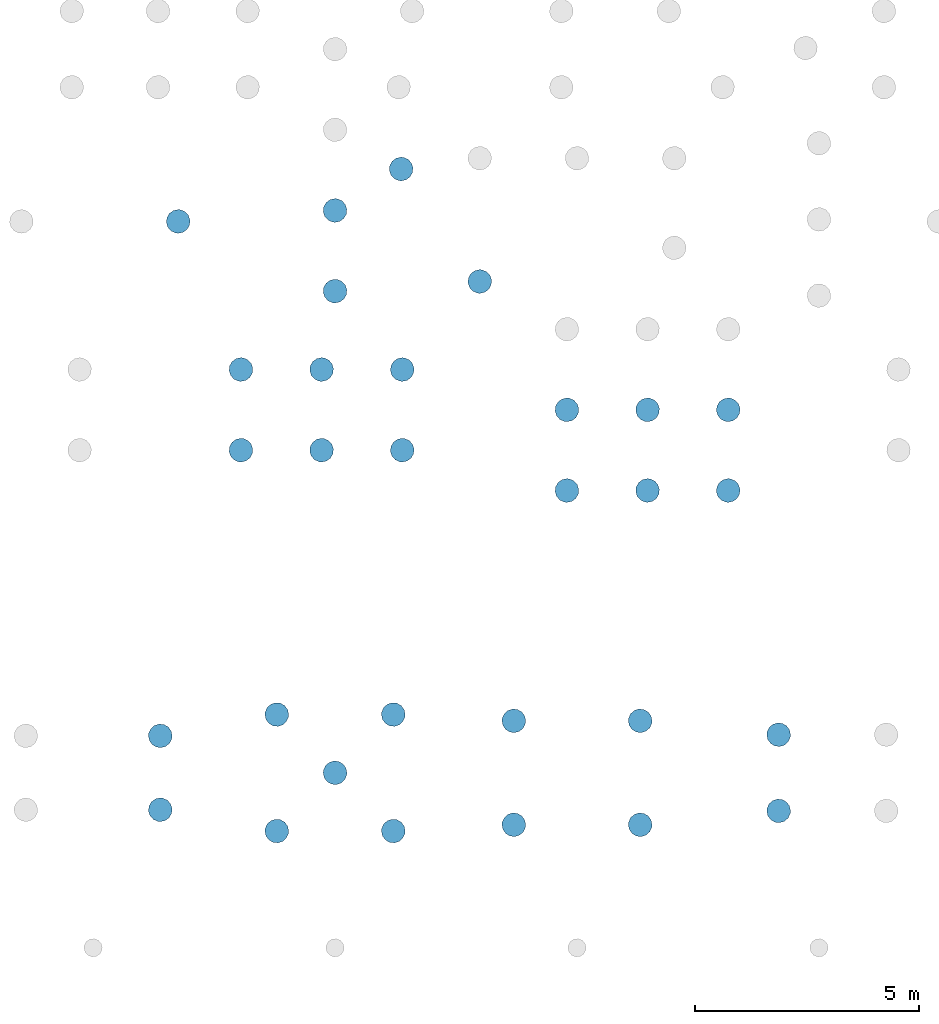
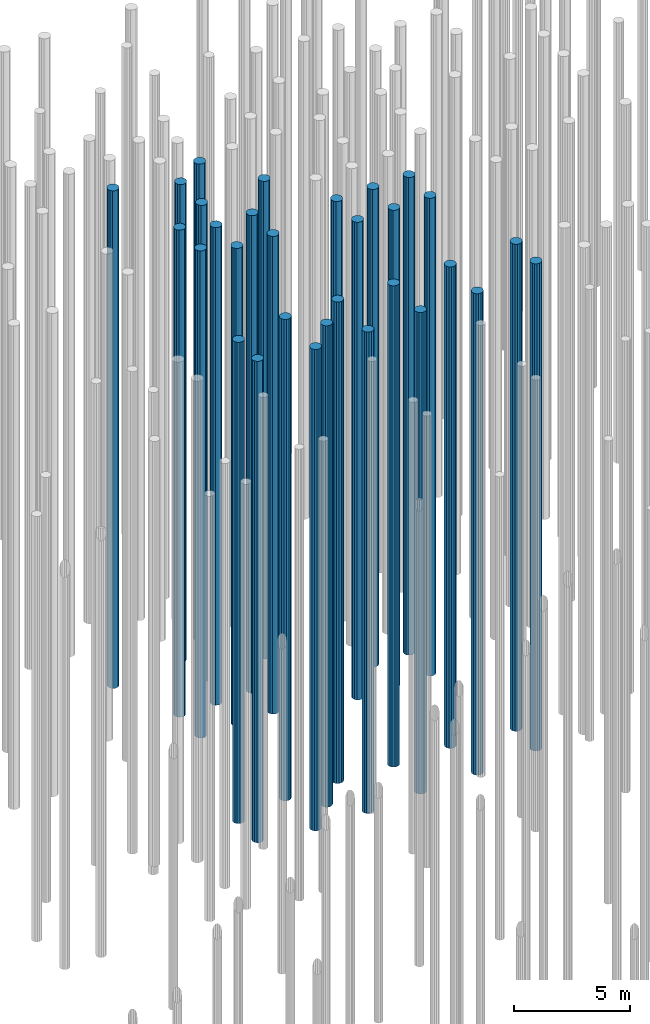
# One storey, part 15 of 20: 30 piles.
"""IFC2X3 building model written with IfcOpenShell, lengths in millimetres."""

from ifc_helpers import new_model, entity, si_unit, converted_unit, derived_unit, direction, frame, origin, place, context, subcontext, project, spatial, polyline, outline, extrude, material, element, save


model = new_model("IFC2X3")

# Units and contexts
model_context = context("Model", 3, precision=0.01, world=origin(), true_north=direction((6.12303176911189e-17, 1.0)))
body_context = subcontext(model_context, "Body", "Model", "MODEL_VIEW")
ifc_project = project(units=[si_unit("LENGTHUNIT", "METRE", prefix="MILLI"), si_unit("AREAUNIT", "SQUARE_METRE"), si_unit("VOLUMEUNIT", "CUBIC_METRE"), converted_unit("PLANEANGLEUNIT", "DEGREE", entity("IfcRatioMeasure", 0.0174532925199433), si_unit("PLANEANGLEUNIT", "RADIAN"), dimensions=[0, 0, 0, 0, 0, 0, 0]), si_unit("MASSUNIT", "GRAM", prefix="KILO"), derived_unit("MASSDENSITYUNIT", [(si_unit("MASSUNIT", "GRAM", prefix="KILO"), 1), (si_unit("LENGTHUNIT", "METRE"), -3)]), si_unit("TIMEUNIT", "SECOND"), si_unit("FREQUENCYUNIT", "HERTZ"), si_unit("THERMODYNAMICTEMPERATUREUNIT", "DEGREE_CELSIUS"), derived_unit("THERMALTRANSMITTANCEUNIT", [(si_unit("MASSUNIT", "GRAM", prefix="KILO"), 1), (si_unit("THERMODYNAMICTEMPERATUREUNIT", "KELVIN"), -1), (si_unit("TIMEUNIT", "SECOND"), -3)]), derived_unit("VOLUMETRICFLOWRATEUNIT", [(si_unit("LENGTHUNIT", "METRE"), 3), (si_unit("TIMEUNIT", "SECOND"), -1)]), si_unit("ELECTRICCURRENTUNIT", "AMPERE"), si_unit("ELECTRICVOLTAGEUNIT", "VOLT"), si_unit("POWERUNIT", "WATT"), si_unit("FORCEUNIT", "NEWTON", prefix="KILO"), si_unit("ILLUMINANCEUNIT", "LUX"), si_unit("LUMINOUSFLUXUNIT", "LUMEN"), si_unit("LUMINOUSINTENSITYUNIT", "CANDELA"), derived_unit("USERDEFINED", [(si_unit("MASSUNIT", "GRAM", prefix="KILO"), -1), (si_unit("LENGTHUNIT", "METRE"), -2), (si_unit("TIMEUNIT", "SECOND"), 3), (si_unit("LUMINOUSFLUXUNIT", "LUMEN"), 1)]), derived_unit("LINEARVELOCITYUNIT", [(si_unit("LENGTHUNIT", "METRE"), 1), (si_unit("TIMEUNIT", "SECOND"), -1)]), si_unit("PRESSUREUNIT", "PASCAL"), derived_unit("USERDEFINED", [(si_unit("LENGTHUNIT", "METRE"), -2), (si_unit("MASSUNIT", "GRAM", prefix="KILO"), 1), (si_unit("TIMEUNIT", "SECOND"), -2)])], contexts=[model_context])

# Site, building, storey
site_placement = place(None, origin())
site = spatial("IfcSite", under=ifc_project, at=site_placement, Name="Default", CompositionType="ELEMENT")
building_placement = place(site_placement, origin())
building = spatial("IfcBuilding", under=site, at=building_placement, Name="niet gebruiken", CompositionType="ELEMENT")
storey_placement = place(building_placement, frame((0.0, 0.0, -4000.0)))
storey = spatial("IfcBuildingStorey", under=building, at=storey_placement, Name="Level t.b.v. palenplan", CompositionType="ELEMENT", Elevation=-4000.0)

# Piles
ifc_material = material(Name="NLRS_f2_beton ihwg")
pile_1_placement = place(storey_placement, origin())
element("IfcPile", 1, at=pile_1_placement, inside=storey, material=ifc_material, Name="NLRS_17.12_SFO_TLB_funderingspaal grondverdringend_gen:Fundex_r530/650", ObjectType="NLRS_17.12_SFO_TLB_funderingspaal grondverdringend_gen:Fundex_r530/650", context=body_context, shape_type="SweptSolid", body=[
    extrude(outline(polyline([(-55.0965980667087, -259.20911419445), (55.0965980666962, -259.209114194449), (155.763091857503, -214.389503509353), (229.496732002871, -132.499999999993), (263.548302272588, -27.7000427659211), (252.029976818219, 81.8895035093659), (196.933378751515, 177.319610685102), (107.785210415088, 242.089546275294), (55.0965980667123, 259.209114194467), (-55.0965980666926, 259.209114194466), (-155.763091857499, 214.389503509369), (-229.496732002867, 132.50000000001), (-263.548302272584, 27.7000427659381), (-252.029976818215, -81.8895035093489), (-196.933378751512, -177.319610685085), (-107.785210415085, -242.089546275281), (-55.0965980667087, -259.20911419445)])), frame((84300.0, 37881.0, -23100.0), z_axis=(0.0, 0.0, 1.0), x_axis=(-0.978147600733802, -0.207911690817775, 0.0)), (0.0, 0.0, 1.0), 25570.0),
])
pile_2_placement = place(storey_placement, origin())
element("IfcPile", 2, at=pile_2_placement, inside=storey, material=ifc_material, Name="NLRS_17.12_SFO_TLB_funderingspaal grondverdringend_gen:Fundex_r530/650", ObjectType="NLRS_17.12_SFO_TLB_funderingspaal grondverdringend_gen:Fundex_r530/650", context=body_context, shape_type="SweptSolid", body=[
    extrude(outline(polyline([(-55.0965980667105, -259.209114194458), (55.0965980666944, -259.209114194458), (155.763091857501, -214.389503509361), (229.496732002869, -132.500000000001), (263.548302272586, -27.7000427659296), (252.029976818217, 81.8895035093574), (196.933378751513, 177.319610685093), (107.785210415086, 242.089546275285), (55.0965980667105, 259.209114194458), (-55.0965980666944, 259.209114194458), (-155.763091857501, 214.389503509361), (-229.496732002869, 132.500000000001), (-263.548302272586, 27.7000427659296), (-252.029976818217, -81.8895035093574), (-196.933378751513, -177.319610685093), (-107.785210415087, -242.089546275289), (-55.0965980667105, -259.209114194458)])), frame((84300.0, 36081.0, -23100.0), z_axis=(0.0, 0.0, 1.0), x_axis=(-0.978147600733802, -0.207911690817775, 0.0)), (0.0, 0.0, 1.0), 25570.0),
])
pile_3_placement = place(storey_placement, origin())
element("IfcPile", 3, at=pile_3_placement, inside=storey, material=ifc_material, Name="NLRS_17.12_SFO_TLB_funderingspaal grondverdringend_gen:Fundex_r530/650", ObjectType="NLRS_17.12_SFO_TLB_funderingspaal grondverdringend_gen:Fundex_r530/650", context=body_context, shape_type="SweptSolid", body=[
    extrude(outline(polyline([(-55.0965980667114, -259.209114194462), (55.0965980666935, -259.209114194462), (155.7630918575, -214.389503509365), (229.496732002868, -132.500000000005), (263.548302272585, -27.7000427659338), (252.029976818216, 81.8895035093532), (196.933378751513, 177.319610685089), (107.785210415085, 242.089546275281), (55.0965980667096, 259.209114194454), (-55.0965980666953, 259.209114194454), (-155.763091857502, 214.389503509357), (-229.49673200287, 132.499999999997), (-263.548302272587, 27.7000427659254), (-252.029976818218, -81.8895035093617), (-196.933378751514, -177.319610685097), (-107.785210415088, -242.089546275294), (-55.0965980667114, -259.209114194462)])), frame((86100.0, 36081.0, -23100.0), z_axis=(0.0, 0.0, 1.0), x_axis=(-0.978147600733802, -0.207911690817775, 0.0)), (0.0, 0.0, 1.0), 25070.0),
])
pile_4_placement = place(storey_placement, origin())
element("IfcPile", 4, at=pile_4_placement, inside=storey, material=ifc_material, Name="NLRS_17.12_SFO_TLB_funderingspaal grondverdringend_gen:Fundex_r530/650", ObjectType="NLRS_17.12_SFO_TLB_funderingspaal grondverdringend_gen:Fundex_r530/650", context=body_context, shape_type="SweptSolid", body=[
    extrude(outline(polyline([(-55.0965980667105, -259.209114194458), (55.0965980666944, -259.209114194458), (155.763091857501, -214.389503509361), (229.496732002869, -132.500000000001), (263.548302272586, -27.7000427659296), (252.029976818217, 81.8895035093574), (196.933378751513, 177.319610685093), (107.785210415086, 242.089546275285), (55.0965980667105, 259.209114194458), (-55.0965980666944, 259.209114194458), (-155.763091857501, 214.389503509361), (-229.496732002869, 132.500000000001), (-263.548302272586, 27.7000427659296), (-252.029976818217, -81.8895035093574), (-196.933378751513, -177.319610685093), (-107.785210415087, -242.089546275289), (-55.0965980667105, -259.209114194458)])), frame((86100.0, 37881.0, -23100.0), z_axis=(0.0, 0.0, 1.0), x_axis=(-0.978147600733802, -0.207911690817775, 0.0)), (0.0, 0.0, 1.0), 25070.0),
])
pile_5_placement = place(storey_placement, origin())
element("IfcPile", 5, at=pile_5_placement, inside=storey, material=ifc_material, Name="NLRS_17.12_SFO_TLB_funderingspaal grondverdringend_gen:Fundex_r530/650", ObjectType="NLRS_17.12_SFO_TLB_funderingspaal grondverdringend_gen:Fundex_r530/650", context=body_context, shape_type="SweptSolid", body=[
    extrude(outline(polyline([(-55.0965980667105, -259.209114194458), (55.0965980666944, -259.209114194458), (155.763091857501, -214.389503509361), (229.496732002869, -132.500000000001), (263.548302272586, -27.7000427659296), (252.029976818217, 81.8895035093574), (196.933378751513, 177.319610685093), (107.785210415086, 242.089546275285), (55.0965980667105, 259.209114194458), (-55.0965980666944, 259.209114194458), (-155.763091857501, 214.389503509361), (-229.496732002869, 132.500000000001), (-263.548302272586, 27.7000427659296), (-252.029976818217, -81.8895035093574), (-196.933378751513, -177.319610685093), (-107.785210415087, -242.089546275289), (-55.0965980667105, -259.209114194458)])), frame((87900.0, 37881.0, -23100.0), z_axis=(0.0, 0.0, 1.0), x_axis=(-0.978147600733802, -0.207911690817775, 0.0)), (0.0, 0.0, 1.0), 25070.0),
])
pile_6_placement = place(storey_placement, origin())
element("IfcPile", 6, at=pile_6_placement, inside=storey, material=ifc_material, Name="NLRS_17.12_SFO_TLB_funderingspaal grondverdringend_gen:Fundex_r530/650", ObjectType="NLRS_17.12_SFO_TLB_funderingspaal grondverdringend_gen:Fundex_r530/650", context=body_context, shape_type="SweptSolid", body=[
    extrude(outline(polyline([(-55.0965980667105, -259.209114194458), (55.0965980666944, -259.209114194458), (155.763091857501, -214.389503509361), (229.496732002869, -132.500000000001), (263.548302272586, -27.7000427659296), (252.029976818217, 81.8895035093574), (196.933378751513, 177.319610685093), (107.785210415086, 242.089546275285), (55.0965980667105, 259.209114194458), (-55.0965980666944, 259.209114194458), (-155.763091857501, 214.389503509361), (-229.496732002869, 132.500000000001), (-263.548302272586, 27.7000427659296), (-252.029976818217, -81.8895035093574), (-196.933378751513, -177.319610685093), (-107.785210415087, -242.089546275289), (-55.0965980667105, -259.209114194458)])), frame((87900.0, 36081.0, -23100.0), z_axis=(0.0, 0.0, 1.0), x_axis=(-0.978147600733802, -0.207911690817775, 0.0)), (0.0, 0.0, 1.0), 25070.0),
])
pile_7_placement = place(storey_placement, origin())
element("IfcPile", 7, at=pile_7_placement, inside=storey, material=ifc_material, Name="NLRS_17.12_SFO_TLB_funderingspaal grondverdringend_gen:Fundex_r530/650", ObjectType="NLRS_17.12_SFO_TLB_funderingspaal grondverdringend_gen:Fundex_r530/650", context=body_context, shape_type="SweptSolid", body=[
    extrude(outline(polyline([(-55.0965980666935, -259.209114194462), (55.0965980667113, -259.209114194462), (155.763091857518, -214.389503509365), (229.496732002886, -132.500000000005), (263.548302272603, -27.7000427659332), (252.029976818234, 81.8895035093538), (196.93337875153, 177.31961068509), (107.785210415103, 242.089546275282), (55.0965980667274, 259.209114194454), (-55.0965980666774, 259.209114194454), (-155.763091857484, 214.389503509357), (-229.496732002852, 132.499999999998), (-263.548302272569, 27.700042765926), (-252.0299768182, -81.889503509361), (-196.933378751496, -177.319610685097), (-107.78521041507, -242.089546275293), (-55.0965980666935, -259.209114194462)])), frame((91575.0, 36981.0, -23100.0), z_axis=(0.0, 0.0, 1.0), x_axis=(-0.978147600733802, -0.207911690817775, 0.0)), (0.0, 0.0, 1.0), 25070.0),
])
pile_8_placement = place(storey_placement, origin())
element("IfcPile", 8, at=pile_8_placement, inside=storey, material=ifc_material, Name="NLRS_17.12_SFO_TLB_funderingspaal grondverdringend_gen:Fundex_r530/650", ObjectType="NLRS_17.12_SFO_TLB_funderingspaal grondverdringend_gen:Fundex_r530/650", context=body_context, shape_type="SweptSolid", body=[
    extrude(outline(polyline([(-55.0965980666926, -259.209114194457), (55.0965980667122, -259.209114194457), (155.763091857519, -214.38950350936), (229.496732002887, -132.5), (263.548302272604, -27.700042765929), (252.029976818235, 81.889503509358), (196.933378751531, 177.319610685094), (107.785210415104, 242.089546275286), (55.0965980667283, 259.209114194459), (-55.0965980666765, 259.209114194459), (-155.763091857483, 214.389503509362), (-229.496732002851, 132.500000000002), (-263.548302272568, 27.7000427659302), (-252.029976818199, -81.8895035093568), (-196.933378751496, -177.319610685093), (-107.785210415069, -242.089546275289), (-55.0965980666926, -259.209114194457)])), frame((93375.0, 36981.0, -23100.0), z_axis=(0.0, 0.0, 1.0), x_axis=(-0.978147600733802, -0.207911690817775, 0.0)), (0.0, 0.0, 1.0), 25070.0),
])
pile_9_placement = place(storey_placement, origin())
element("IfcPile", 9, at=pile_9_placement, inside=storey, material=ifc_material, Name="NLRS_17.12_SFO_TLB_funderingspaal grondverdringend_gen:Fundex_r530/650", ObjectType="NLRS_17.12_SFO_TLB_funderingspaal grondverdringend_gen:Fundex_r530/650", context=body_context, shape_type="SweptSolid", body=[
    extrude(outline(polyline([(-55.0965980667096, -259.209114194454), (55.0965980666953, -259.209114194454), (155.763091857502, -214.389503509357), (229.49673200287, -132.499999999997), (263.548302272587, -27.7000427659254), (252.029976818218, 81.8895035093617), (196.933378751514, 177.319610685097), (107.785210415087, 242.089546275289), (55.0965980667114, 259.209114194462), (-55.0965980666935, 259.209114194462), (-155.7630918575, 214.389503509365), (-229.496732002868, 132.500000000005), (-263.548302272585, 27.7000427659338), (-252.029976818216, -81.8895035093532), (-196.933378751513, -177.319610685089), (-107.785210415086, -242.089546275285), (-55.0965980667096, -259.209114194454)])), frame((95175.0, 36981.0, -23100.0), z_axis=(0.0, 0.0, 1.0), x_axis=(-0.978147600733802, -0.207911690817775, 0.0)), (0.0, 0.0, 1.0), 25070.0),
])
pile_10_placement = place(storey_placement, origin())
element("IfcPile", 10, at=pile_10_placement, inside=storey, material=ifc_material, Name="NLRS_17.12_SFO_TLB_funderingspaal grondverdringend_gen:Fundex_r530/650", ObjectType="NLRS_17.12_SFO_TLB_funderingspaal grondverdringend_gen:Fundex_r530/650", context=body_context, shape_type="SweptSolid", body=[
    extrude(outline(polyline([(-55.0965980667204, -259.209114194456), (55.0965980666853, -259.209114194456), (155.763091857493, -214.389503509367), (229.496732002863, -132.500000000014), (263.548302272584, -27.7000427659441), (252.029976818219, 81.8895035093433), (196.93337875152, 177.319610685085), (107.785210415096, 242.089546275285), (55.0965980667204, 259.209114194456), (-55.0965980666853, 259.209114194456), (-155.763091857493, 214.389503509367), (-229.496732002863, 132.500000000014), (-263.548302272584, 27.7000427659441), (-252.029976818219, -81.8895035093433), (-196.93337875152, -177.319610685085), (-107.785210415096, -242.089546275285), (-55.0965980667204, -259.209114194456)])), frame((86400.0, 39631.0, -23100.0), z_axis=(0.0, 0.0, 1.0), x_axis=(-0.978147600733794, -0.207911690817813, 0.0)), (0.0, 0.0, 1.0), 25070.0),
])
pile_11_placement = place(storey_placement, origin())
element("IfcPile", 11, at=pile_11_placement, inside=storey, material=ifc_material, Name="NLRS_17.12_SFO_TLB_funderingspaal grondverdringend_gen:Fundex_r530/650", ObjectType="NLRS_17.12_SFO_TLB_funderingspaal grondverdringend_gen:Fundex_r530/650", context=body_context, shape_type="SweptSolid", body=[
    extrude(outline(polyline([(-55.0965980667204, -259.209114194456), (55.0965980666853, -259.209114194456), (155.763091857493, -214.389503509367), (229.496732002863, -132.500000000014), (263.548302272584, -27.7000427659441), (252.029976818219, 81.8895035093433), (196.93337875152, 177.319610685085), (107.785210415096, 242.089546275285), (55.0965980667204, 259.209114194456), (-55.0965980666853, 259.209114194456), (-155.763091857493, 214.389503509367), (-229.496732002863, 132.500000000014), (-263.548302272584, 27.7000427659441), (-252.029976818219, -81.8895035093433), (-196.93337875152, -177.319610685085), (-107.785210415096, -242.089546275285), (-55.0965980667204, -259.209114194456)])), frame((86400.0, 41431.0, -23100.0), z_axis=(0.0, 0.0, 1.0), x_axis=(-0.978147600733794, -0.207911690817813, 0.0)), (0.0, 0.0, 1.0), 25070.0),
])
pile_12_placement = place(storey_placement, origin())
element("IfcPile", 12, at=pile_12_placement, inside=storey, material=ifc_material, Name="NLRS_17.12_SFO_TLB_funderingspaal grondverdringend_gen:Fundex_r530/650", ObjectType="NLRS_17.12_SFO_TLB_funderingspaal grondverdringend_gen:Fundex_r530/650", context=body_context, shape_type="SweptSolid", body=[
    extrude(outline(polyline([(-55.0965980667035, -259.20911419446), (55.0965980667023, -259.20911419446), (155.76309185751, -214.389503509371), (229.49673200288, -132.500000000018), (263.548302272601, -27.7000427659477), (252.029976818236, 81.8895035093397), (196.933378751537, 177.319610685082), (107.785210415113, 242.089546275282), (55.0965980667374, 259.209114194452), (-55.0965980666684, 259.209114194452), (-155.763091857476, 214.389503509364), (-229.496732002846, 132.500000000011), (-263.548302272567, 27.7000427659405), (-252.029976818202, -81.8895035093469), (-196.933378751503, -177.319610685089), (-107.785210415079, -242.089546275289), (-55.0965980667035, -259.20911419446)])), frame((89630.0, 39846.0, -23100.0), z_axis=(0.0, 0.0, 1.0), x_axis=(-0.978147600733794, -0.207911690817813, 0.0)), (0.0, 0.0, 1.0), 25070.0),
])
pile_13_placement = place(storey_placement, origin())
element("IfcPile", 13, at=pile_13_placement, inside=storey, material=ifc_material, Name="NLRS_17.12_SFO_TLB_funderingspaal grondverdringend_gen:Fundex_r530/650", ObjectType="NLRS_17.12_SFO_TLB_funderingspaal grondverdringend_gen:Fundex_r530/650", context=body_context, shape_type="SweptSolid", body=[
    extrude(outline(polyline([(-55.0965980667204, -259.209114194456), (55.0965980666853, -259.209114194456), (155.763091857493, -214.389503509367), (229.496732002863, -132.500000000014), (263.548302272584, -27.7000427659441), (252.029976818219, 81.8895035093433), (196.93337875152, 177.319610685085), (107.785210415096, 242.089546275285), (55.0965980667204, 259.209114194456), (-55.0965980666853, 259.209114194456), (-155.763091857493, 214.389503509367), (-229.496732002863, 132.500000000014), (-263.548302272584, 27.7000427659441), (-252.029976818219, -81.8895035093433), (-196.93337875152, -177.319610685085), (-107.785210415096, -242.089546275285), (-55.0965980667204, -259.209114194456)])), frame((82900.0, 41186.0, -23100.0), z_axis=(0.0, 0.0, 1.0), x_axis=(-0.978147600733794, -0.207911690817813, 0.0)), (0.0, 0.0, 1.0), 26118.0),
])
pile_14_placement = place(storey_placement, origin())
element("IfcPile", 14, at=pile_14_placement, inside=storey, material=ifc_material, Name="NLRS_17.12_SFO_TLB_funderingspaal grondverdringend_gen:Fundex_r530/650", ObjectType="NLRS_17.12_SFO_TLB_funderingspaal grondverdringend_gen:Fundex_r530/650", context=body_context, shape_type="SweptSolid", body=[
    extrude(outline(polyline([(-55.0965980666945, -259.209114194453), (55.096598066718, -259.209114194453), (155.763091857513, -214.389503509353), (229.496732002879, -132.499999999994), (263.548302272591, -27.7000427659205), (252.029976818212, 81.8895035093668), (196.933378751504, 177.319610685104), (107.785210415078, 242.089546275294), (55.0965980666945, 259.209114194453), (-55.096598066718, 259.209114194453), (-155.763091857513, 214.389503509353), (-229.496732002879, 132.499999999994), (-263.548302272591, 27.7000427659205), (-252.029976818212, -81.8895035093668), (-196.933378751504, -177.319610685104), (-107.785210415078, -242.089546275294), (-55.0965980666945, -259.209114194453)])), frame((82500.0, 29706.0, -23100.0), z_axis=(0.0, 0.0, 1.0), x_axis=(0.207911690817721, -0.978147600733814, 0.0)), (0.0, 0.0, 1.0), 25270.0),
])
pile_15_placement = place(storey_placement, origin())
element("IfcPile", 15, at=pile_15_placement, inside=storey, material=ifc_material, Name="NLRS_17.12_SFO_TLB_funderingspaal grondverdringend_gen:Fundex_r530/650", ObjectType="NLRS_17.12_SFO_TLB_funderingspaal grondverdringend_gen:Fundex_r530/650", context=body_context, shape_type="SweptSolid", body=[
    extrude(outline(polyline([(-55.0965980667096, -259.209114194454), (55.0965980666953, -259.209114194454), (155.763091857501, -214.389503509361), (229.496732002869, -132.500000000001), (263.548302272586, -27.7000427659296), (252.029976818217, 81.8895035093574), (196.933378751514, 177.319610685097), (107.785210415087, 242.089546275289), (55.0965980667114, 259.209114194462), (-55.0965980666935, 259.209114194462), (-155.763091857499, 214.389503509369), (-229.496732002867, 132.50000000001), (-263.548302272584, 27.7000427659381), (-252.029976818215, -81.8895035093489), (-196.933378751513, -177.319610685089), (-107.785210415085, -242.089546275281), (-55.0965980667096, -259.209114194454)])), frame((82500.0, 28056.0, -23100.0), z_axis=(0.0, 0.0, 1.0), x_axis=(-0.978147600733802, -0.207911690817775, 0.0)), (0.0, 0.0, 1.0), 25270.0),
])
pile_16_placement = place(storey_placement, origin())
element("IfcPile", 16, at=pile_16_placement, inside=storey, material=ifc_material, Name="NLRS_17.12_SFO_TLB_funderingspaal grondverdringend_gen:Fundex_r530/650", ObjectType="NLRS_17.12_SFO_TLB_funderingspaal grondverdringend_gen:Fundex_r530/650", context=body_context, shape_type="SweptSolid", body=[
    extrude(outline(polyline([(-55.0965980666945, -259.209114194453), (55.096598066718, -259.209114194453), (155.763091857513, -214.389503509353), (229.496732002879, -132.499999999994), (263.548302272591, -27.7000427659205), (252.029976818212, 81.8895035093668), (196.933378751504, 177.319610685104), (107.785210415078, 242.089546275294), (55.0965980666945, 259.209114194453), (-55.096598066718, 259.209114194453), (-155.763091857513, 214.389503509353), (-229.496732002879, 132.499999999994), (-263.548302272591, 27.7000427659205), (-252.029976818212, -81.8895035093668), (-196.933378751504, -177.319610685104), (-107.785210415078, -242.089546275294), (-55.0965980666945, -259.209114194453)])), frame((85100.0, 30181.0, -23100.0), z_axis=(0.0, 0.0, 1.0), x_axis=(0.207911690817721, -0.978147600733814, 0.0)), (0.0, 0.0, 1.0), 25270.0),
])
pile_17_placement = place(storey_placement, origin())
element("IfcPile", 17, at=pile_17_placement, inside=storey, material=ifc_material, Name="NLRS_17.12_SFO_TLB_funderingspaal grondverdringend_gen:Fundex_r530/650", ObjectType="NLRS_17.12_SFO_TLB_funderingspaal grondverdringend_gen:Fundex_r530/650", context=body_context, shape_type="SweptSolid", body=[
    extrude(outline(polyline([(-55.0965980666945, -259.209114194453), (55.096598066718, -259.209114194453), (155.763091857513, -214.389503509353), (229.496732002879, -132.499999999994), (263.548302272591, -27.7000427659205), (252.029976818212, 81.8895035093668), (196.933378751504, 177.319610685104), (107.785210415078, 242.089546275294), (55.0965980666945, 259.209114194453), (-55.096598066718, 259.209114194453), (-155.763091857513, 214.389503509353), (-229.496732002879, 132.499999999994), (-263.548302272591, 27.7000427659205), (-252.029976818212, -81.8895035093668), (-196.933378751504, -177.319610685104), (-107.785210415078, -242.089546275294), (-55.0965980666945, -259.209114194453)])), frame((87700.0, 30181.0, -23100.0), z_axis=(0.0, 0.0, 1.0), x_axis=(0.207911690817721, -0.978147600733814, 0.0)), (0.0, 0.0, 1.0), 25270.0),
])
pile_18_placement = place(storey_placement, origin())
element("IfcPile", 18, at=pile_18_placement, inside=storey, material=ifc_material, Name="NLRS_17.12_SFO_TLB_funderingspaal grondverdringend_gen:Fundex_r530/650", ObjectType="NLRS_17.12_SFO_TLB_funderingspaal grondverdringend_gen:Fundex_r530/650", context=body_context, shape_type="SweptSolid", body=[
    extrude(outline(polyline([(-55.0965980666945, -259.209114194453), (55.096598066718, -259.209114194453), (155.763091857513, -214.389503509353), (229.496732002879, -132.499999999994), (263.548302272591, -27.7000427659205), (252.029976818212, 81.8895035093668), (196.933378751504, 177.319610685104), (107.785210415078, 242.089546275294), (55.0965980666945, 259.209114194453), (-55.096598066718, 259.209114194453), (-155.763091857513, 214.389503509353), (-229.496732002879, 132.499999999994), (-263.548302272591, 27.7000427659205), (-252.029976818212, -81.8895035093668), (-196.933378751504, -177.319610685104), (-107.785210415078, -242.089546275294), (-55.0965980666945, -259.209114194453)])), frame((87700.0, 27581.0, -23100.0), z_axis=(0.0, 0.0, 1.0), x_axis=(0.207911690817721, -0.978147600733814, 0.0)), (0.0, 0.0, 1.0), 25270.0),
])
pile_19_placement = place(storey_placement, origin())
element("IfcPile", 19, at=pile_19_placement, inside=storey, material=ifc_material, Name="NLRS_17.12_SFO_TLB_funderingspaal grondverdringend_gen:Fundex_r530/650", ObjectType="NLRS_17.12_SFO_TLB_funderingspaal grondverdringend_gen:Fundex_r530/650", context=body_context, shape_type="SweptSolid", body=[
    extrude(outline(polyline([(-55.0965980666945, -259.209114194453), (55.096598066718, -259.209114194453), (155.763091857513, -214.389503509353), (229.496732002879, -132.499999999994), (263.548302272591, -27.7000427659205), (252.029976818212, 81.8895035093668), (196.933378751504, 177.319610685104), (107.785210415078, 242.089546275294), (55.0965980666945, 259.209114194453), (-55.096598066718, 259.209114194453), (-155.763091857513, 214.389503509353), (-229.496732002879, 132.499999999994), (-263.548302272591, 27.7000427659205), (-252.029976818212, -81.8895035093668), (-196.933378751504, -177.319610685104), (-107.785210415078, -242.089546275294), (-55.0965980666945, -259.209114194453)])), frame((85100.0, 27581.0, -23100.0), z_axis=(0.0, 0.0, 1.0), x_axis=(0.207911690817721, -0.978147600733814, 0.0)), (0.0, 0.0, 1.0), 25270.0),
])
pile_20_placement = place(storey_placement, origin())
element("IfcPile", 20, at=pile_20_placement, inside=storey, material=ifc_material, Name="NLRS_17.12_SFO_TLB_funderingspaal grondverdringend_gen:Fundex_r530/650", ObjectType="NLRS_17.12_SFO_TLB_funderingspaal grondverdringend_gen:Fundex_r530/650", context=body_context, shape_type="SweptSolid", body=[
    extrude(outline(polyline([(-55.0965980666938, -259.20911419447), (55.0965980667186, -259.20911419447), (155.763091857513, -214.38950350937), (229.49673200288, -132.500000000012), (263.548302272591, -27.7000427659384), (252.029976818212, 81.8895035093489), (196.933378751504, 177.319610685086), (107.785210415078, 242.089546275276), (55.0965980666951, 259.209114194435), (-55.0965980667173, 259.209114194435), (-155.763091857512, 214.389503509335), (-229.496732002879, 132.499999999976), (-263.54830227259, 27.7000427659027), (-252.029976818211, -81.8895035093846), (-196.933378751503, -177.319610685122), (-107.785210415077, -242.089546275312), (-55.0965980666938, -259.20911419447)])), frame((90390.0, 30041.0, -23100.0), z_axis=(0.0, 0.0, 1.0), x_axis=(0.207911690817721, -0.978147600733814, 0.0)), (0.0, 0.0, 1.0), 25270.0),
])
pile_21_placement = place(storey_placement, origin())
element("IfcPile", 21, at=pile_21_placement, inside=storey, material=ifc_material, Name="NLRS_17.12_SFO_TLB_funderingspaal grondverdringend_gen:Fundex_r530/650", ObjectType="NLRS_17.12_SFO_TLB_funderingspaal grondverdringend_gen:Fundex_r530/650", context=body_context, shape_type="SweptSolid", body=[
    extrude(outline(polyline([(-55.0965980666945, -259.209114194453), (55.096598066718, -259.209114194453), (155.763091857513, -214.389503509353), (229.496732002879, -132.499999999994), (263.548302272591, -27.7000427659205), (252.029976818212, 81.8895035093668), (196.933378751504, 177.319610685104), (107.785210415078, 242.089546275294), (55.0965980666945, 259.209114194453), (-55.096598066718, 259.209114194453), (-155.763091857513, 214.389503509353), (-229.496732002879, 132.499999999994), (-263.548302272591, 27.7000427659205), (-252.029976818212, -81.8895035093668), (-196.933378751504, -177.319610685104), (-107.785210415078, -242.089546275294), (-55.0965980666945, -259.209114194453)])), frame((93210.0, 30041.0, -23100.0), z_axis=(0.0, 0.0, 1.0), x_axis=(0.207911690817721, -0.978147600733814, 0.0)), (0.0, 0.0, 1.0), 25270.0),
])
pile_22_placement = place(storey_placement, origin())
element("IfcPile", 22, at=pile_22_placement, inside=storey, material=ifc_material, Name="NLRS_17.12_SFO_TLB_funderingspaal grondverdringend_gen:Fundex_r530/650", ObjectType="NLRS_17.12_SFO_TLB_funderingspaal grondverdringend_gen:Fundex_r530/650", context=body_context, shape_type="SweptSolid", body=[
    extrude(outline(polyline([(-55.0965980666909, -259.209114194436), (55.0965980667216, -259.209114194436), (155.763091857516, -214.389503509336), (229.496732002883, -132.499999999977), (263.548302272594, -27.7000427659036), (252.029976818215, 81.8895035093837), (196.933378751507, 177.319610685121), (107.785210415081, 242.089546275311), (55.0965980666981, 259.209114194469), (-55.0965980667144, 259.20911419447), (-155.763091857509, 214.38950350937), (-229.496732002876, 132.500000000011), (-263.548302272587, 27.7000427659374), (-252.029976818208, -81.8895035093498), (-196.9333787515, -177.319610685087), (-107.785210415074, -242.089546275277), (-55.0965980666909, -259.209114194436)])), frame((93210.0, 27721.0, -23100.0), z_axis=(0.0, 0.0, 1.0), x_axis=(0.207911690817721, -0.978147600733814, 0.0)), (0.0, 0.0, 1.0), 25270.0),
])
pile_23_placement = place(storey_placement, origin())
element("IfcPile", 23, at=pile_23_placement, inside=storey, material=ifc_material, Name="NLRS_17.12_SFO_TLB_funderingspaal grondverdringend_gen:Fundex_r530/650", ObjectType="NLRS_17.12_SFO_TLB_funderingspaal grondverdringend_gen:Fundex_r530/650", context=body_context, shape_type="SweptSolid", body=[
    extrude(outline(polyline([(-55.0965980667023, -259.209114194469), (55.0965980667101, -259.209114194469), (155.763091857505, -214.389503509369), (229.496732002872, -132.50000000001), (263.548302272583, -27.7000427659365), (252.029976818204, 81.8895035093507), (196.933378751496, 177.319610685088), (107.78521041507, 242.089546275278), (55.0965980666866, 259.209114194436), (-55.0965980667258, 259.209114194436), (-155.763091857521, 214.389503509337), (-229.496732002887, 132.499999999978), (-263.548302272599, 27.7000427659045), (-252.02997681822, -81.8895035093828), (-196.933378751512, -177.31961068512), (-107.785210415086, -242.08954627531), (-55.0965980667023, -259.209114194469)])), frame((90390.0, 27721.0, -23100.0), z_axis=(0.0, 0.0, 1.0), x_axis=(0.207911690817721, -0.978147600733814, 0.0)), (0.0, 0.0, 1.0), 25270.0),
])
pile_24_placement = place(storey_placement, origin())
element("IfcPile", 24, at=pile_24_placement, inside=storey, material=ifc_material, Name="NLRS_17.12_SFO_TLB_funderingspaal grondverdringend_gen:Fundex_r530/650", ObjectType="NLRS_17.12_SFO_TLB_funderingspaal grondverdringend_gen:Fundex_r530/650", context=body_context, shape_type="SweptSolid", body=[
    extrude(outline(polyline([(-55.0965980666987, -259.209114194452), (55.0965980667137, -259.209114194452), (155.763091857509, -214.389503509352), (229.496732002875, -132.499999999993), (263.548302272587, -27.7000427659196), (252.029976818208, 81.8895035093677), (196.9333787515, 177.319610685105), (107.785210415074, 242.089546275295), (55.0965980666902, 259.209114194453), (-55.0965980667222, 259.209114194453), (-155.763091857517, 214.389503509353), (-229.496732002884, 132.499999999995), (-263.548302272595, 27.7000427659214), (-252.029976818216, -81.8895035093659), (-196.933378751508, -177.319610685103), (-107.785210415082, -242.089546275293), (-55.0965980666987, -259.209114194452)])), frame((96300.0, 29731.0, -23100.0), z_axis=(0.0, 0.0, 1.0), x_axis=(0.207911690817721, -0.978147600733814, 0.0)), (0.0, 0.0, 1.0), 25570.0),
])
pile_25_placement = place(storey_placement, origin())
element("IfcPile", 25, at=pile_25_placement, inside=storey, material=ifc_material, Name="NLRS_17.12_SFO_TLB_funderingspaal grondverdringend_gen:Fundex_r530/650", ObjectType="NLRS_17.12_SFO_TLB_funderingspaal grondverdringend_gen:Fundex_r530/650", context=body_context, shape_type="SweptSolid", body=[
    extrude(outline(polyline([(-55.0965980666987, -259.209114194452), (55.0965980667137, -259.209114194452), (155.763091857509, -214.389503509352), (229.496732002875, -132.499999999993), (263.548302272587, -27.7000427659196), (252.029976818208, 81.8895035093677), (196.9333787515, 177.319610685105), (107.785210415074, 242.089546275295), (55.0965980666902, 259.209114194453), (-55.0965980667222, 259.209114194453), (-155.763091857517, 214.389503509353), (-229.496732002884, 132.499999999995), (-263.548302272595, 27.7000427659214), (-252.029976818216, -81.8895035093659), (-196.933378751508, -177.319610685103), (-107.785210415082, -242.089546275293), (-55.0965980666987, -259.209114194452)])), frame((86400.0, 28881.0, -23100.0), z_axis=(0.0, 0.0, 1.0), x_axis=(0.207911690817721, -0.978147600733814, 0.0)), (0.0, 0.0, 1.0), 25270.0),
])
pile_26_placement = place(storey_placement, origin())
element("IfcPile", 26, at=pile_26_placement, inside=storey, material=ifc_material, Name="NLRS_17.12_SFO_TLB_funderingspaal grondverdringend_gen:Fundex_r530/650", ObjectType="NLRS_17.12_SFO_TLB_funderingspaal grondverdringend_gen:Fundex_r530/650", context=body_context, shape_type="SweptSolid", body=[
    extrude(outline(polyline([(-55.0965980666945, -259.209114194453), (55.096598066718, -259.209114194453), (155.763091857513, -214.389503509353), (229.496732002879, -132.499999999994), (263.548302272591, -27.7000427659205), (252.029976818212, 81.8895035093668), (196.933378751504, 177.319610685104), (107.785210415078, 242.089546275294), (55.0965980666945, 259.209114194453), (-55.096598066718, 259.209114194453), (-155.763091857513, 214.389503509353), (-229.496732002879, 132.499999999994), (-263.548302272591, 27.7000427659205), (-252.029976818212, -81.8895035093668), (-196.933378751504, -177.319610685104), (-107.785210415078, -242.089546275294), (-55.0965980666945, -259.209114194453)])), frame((96300.0, 28031.0, -23100.0), z_axis=(0.0, 0.0, 1.0), x_axis=(0.207911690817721, -0.978147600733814, 0.0)), (0.0, 0.0, 1.0), 25570.0),
])
pile_27_placement = place(storey_placement, origin())
element("IfcPile", 27, at=pile_27_placement, inside=storey, material=ifc_material, Name="NLRS_17.12_SFO_TLB_funderingspaal grondverdringend_gen:Fundex_r530/650", ObjectType="NLRS_17.12_SFO_TLB_funderingspaal grondverdringend_gen:Fundex_r530/650", context=body_context, shape_type="SweptSolid", body=[
    extrude(outline(polyline([(-55.0965980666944, -259.209114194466), (55.0965980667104, -259.209114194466), (155.763091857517, -214.389503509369), (229.496732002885, -132.500000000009), (263.548302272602, -27.7000427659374), (252.029976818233, 81.8895035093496), (196.933378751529, 177.319610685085), (107.785210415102, 242.089546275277), (55.0965980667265, 259.20911419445), (-55.0965980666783, 259.20911419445), (-155.763091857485, 214.389503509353), (-229.496732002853, 132.499999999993), (-263.54830227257, 27.7000427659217), (-252.029976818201, -81.8895035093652), (-196.933378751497, -177.319610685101), (-107.785210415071, -242.089546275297), (-55.0965980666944, -259.209114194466)])), frame((91575.0, 35181.0, -23100.0), z_axis=(0.0, 0.0, 1.0), x_axis=(-0.978147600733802, -0.207911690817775, 0.0)), (0.0, 0.0, 1.0), 25070.0),
])
pile_28_placement = place(storey_placement, origin())
element("IfcPile", 28, at=pile_28_placement, inside=storey, material=ifc_material, Name="NLRS_17.12_SFO_TLB_funderingspaal grondverdringend_gen:Fundex_r530/650", ObjectType="NLRS_17.12_SFO_TLB_funderingspaal grondverdringend_gen:Fundex_r530/650", context=body_context, shape_type="SweptSolid", body=[
    extrude(outline(polyline([(-55.0965980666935, -259.209114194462), (55.0965980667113, -259.209114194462), (155.763091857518, -214.389503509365), (229.496732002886, -132.500000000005), (263.548302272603, -27.7000427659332), (252.029976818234, 81.8895035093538), (196.93337875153, 177.31961068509), (107.785210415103, 242.089546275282), (55.0965980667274, 259.209114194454), (-55.0965980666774, 259.209114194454), (-155.763091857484, 214.389503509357), (-229.496732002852, 132.499999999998), (-263.548302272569, 27.700042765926), (-252.0299768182, -81.889503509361), (-196.933378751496, -177.319610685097), (-107.78521041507, -242.089546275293), (-55.0965980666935, -259.209114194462)])), frame((93375.0, 35181.0, -23100.0), z_axis=(0.0, 0.0, 1.0), x_axis=(-0.978147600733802, -0.207911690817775, 0.0)), (0.0, 0.0, 1.0), 25070.0),
])
pile_29_placement = place(storey_placement, origin())
element("IfcPile", 29, at=pile_29_placement, inside=storey, material=ifc_material, Name="NLRS_17.12_SFO_TLB_funderingspaal grondverdringend_gen:Fundex_r530/650", ObjectType="NLRS_17.12_SFO_TLB_funderingspaal grondverdringend_gen:Fundex_r530/650", context=body_context, shape_type="SweptSolid", body=[
    extrude(outline(polyline([(-55.0965980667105, -259.209114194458), (55.0965980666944, -259.209114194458), (155.763091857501, -214.389503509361), (229.496732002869, -132.500000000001), (263.548302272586, -27.7000427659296), (252.029976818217, 81.8895035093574), (196.933378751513, 177.319610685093), (107.785210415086, 242.089546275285), (55.0965980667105, 259.209114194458), (-55.0965980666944, 259.209114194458), (-155.763091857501, 214.389503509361), (-229.496732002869, 132.500000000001), (-263.548302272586, 27.7000427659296), (-252.029976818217, -81.8895035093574), (-196.933378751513, -177.319610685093), (-107.785210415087, -242.089546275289), (-55.0965980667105, -259.209114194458)])), frame((95175.0, 35181.0, -23100.0), z_axis=(0.0, 0.0, 1.0), x_axis=(-0.978147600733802, -0.207911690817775, 0.0)), (0.0, 0.0, 1.0), 25070.0),
])
pile_30_placement = place(storey_placement, origin())
element("IfcPile", 30, at=pile_30_placement, inside=storey, material=ifc_material, Name="NLRS_17.12_SFO_TLB_funderingspaal grondverdringend_gen:Fundex_r530/650", ObjectType="NLRS_17.12_SFO_TLB_funderingspaal grondverdringend_gen:Fundex_r530/650", context=body_context, shape_type="SweptSolid", body=[
    extrude(outline(polyline([(-55.0965980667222, -259.209114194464), (55.0965980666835, -259.209114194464), (155.763091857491, -214.389503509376), (229.496732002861, -132.500000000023), (263.548302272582, -27.7000427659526), (252.029976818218, 81.8895035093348), (196.933378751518, 177.319610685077), (107.785210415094, 242.089546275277), (55.0965980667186, 259.209114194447), (-55.0965980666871, 259.209114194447), (-155.763091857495, 214.389503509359), (-229.496732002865, 132.500000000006), (-263.548302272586, 27.7000427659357), (-252.029976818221, -81.8895035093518), (-196.933378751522, -177.319610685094), (-107.785210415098, -242.089546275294), (-55.0965980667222, -259.209114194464)])), frame((87875.0, 42356.0, -23100.0), z_axis=(0.0, 0.0, 1.0), x_axis=(-0.978147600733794, -0.207911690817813, 0.0)), (0.0, 0.0, 1.0), 25070.0),
])

save(model, "model.ifc")
